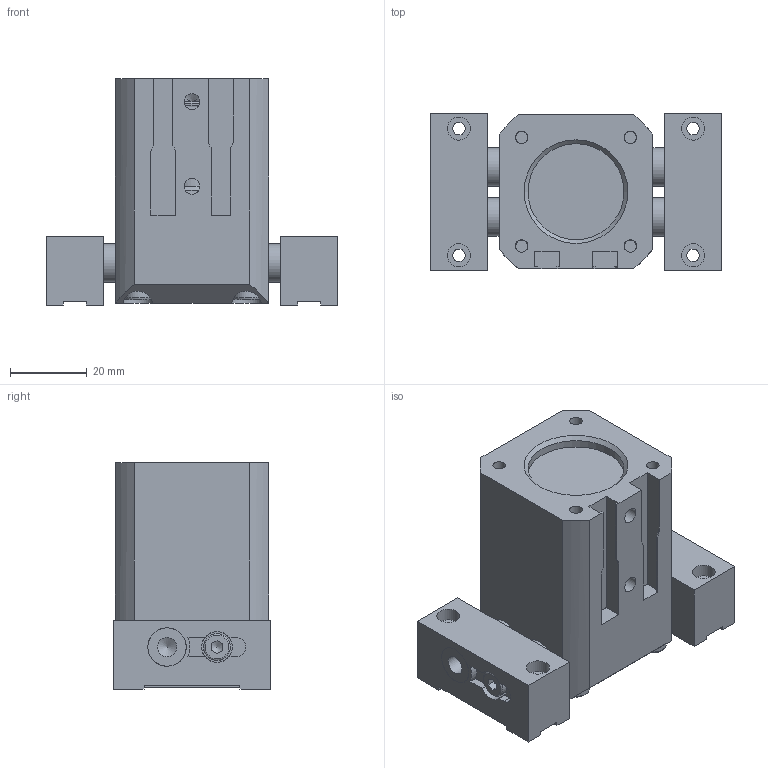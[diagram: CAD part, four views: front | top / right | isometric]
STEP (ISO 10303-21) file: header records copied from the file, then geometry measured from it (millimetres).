
FILE_DESCRIPTION((''),'2;1');
FILE_NAME('T:\CAD\Standard\Daten\3D-Datenbank\GP\GP050\step-Daten\G-GP050-l1-GS+UB open.stp','2012-12-06T13:27:51',('dirk'),(''),'Autodesk Inventor 2011','Autodesk Inventor 2011','');
FILE_SCHEMA(('AUTOMOTIVE_DESIGN { 1 0 10303 214 1 1 1 1 }'));
Length unit declared in the file: millimetre
Products named in the file (3): Baugruppe10; G-GP050-l1-GS-ohne-Backen; G-GP050-UB+B1
Assembly tree (3 placements, depth 2):
  Baugruppe10
    G-GP050-l1-GS-ohne-Backen
    G-GP050-UB+B1  x2
Bounding box: 76 x 41 x 59 mm (x, y, z)
Volume: 95383.1 mm3; surface area: 44766.7 mm2
Topology: 3 solids, 21 shells, 404 faces, 1015 edges, 664 vertices
Faces by surface type: plane 229, cylinder 115, cone 34, torus 25, bspline 1
Full cylindrical faces by diameter (mm): 2.459 x2, 3.242 x10, 4 x6, 4.134 x2, 4.3 x4, 4.5 x2, 4.917 x1, 5 x2, 6 x5, 6.4 x1, 7 x6, 8 x8, 10 x8, 12 x8, 14 x1, 15 x2, 17 x2, 20 x1, 23 x2, 23.6 x2, 25 x1, 27 x1, 27.1 x2, 30 x5
Entity records: 10816 total; most frequent: CARTESIAN_POINT 3344, DIRECTION 1460, ORIENTED_EDGE 1250, EDGE_CURVE 625, AXIS2_PLACEMENT_3D 583, EDGE_LOOP 533, VERTEX_POINT 467, STYLED_ITEM 331
